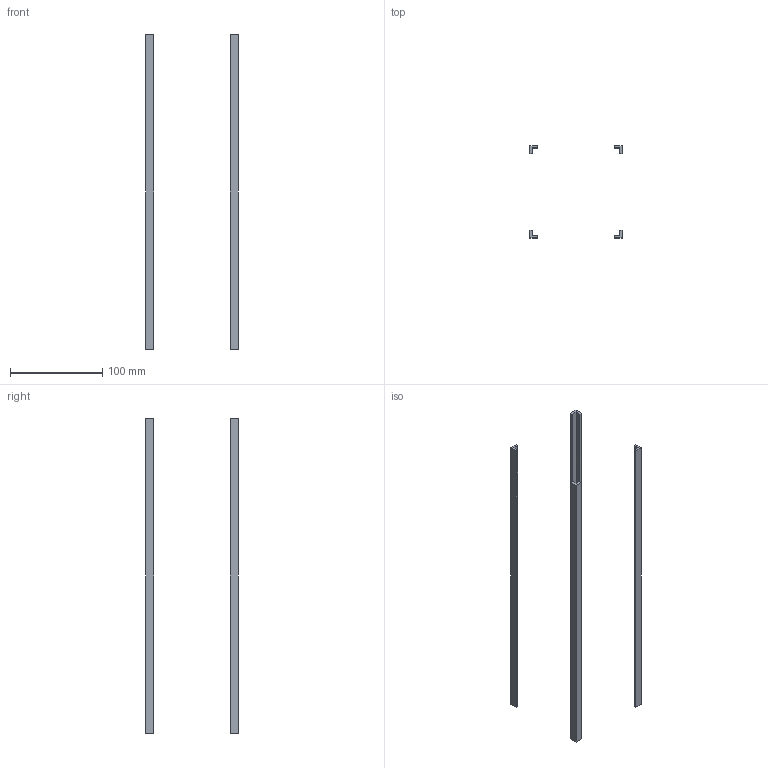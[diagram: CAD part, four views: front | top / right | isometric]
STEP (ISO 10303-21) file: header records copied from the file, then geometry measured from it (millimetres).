
FILE_DESCRIPTION(('Open CASCADE Model'),'2;1');
FILE_NAME('rails','2026-08-12T02:42:45',('Author'),('Open CASCADE'), 'Open CASCADE STEP processor 7.9','build123d','Unknown');
FILE_SCHEMA(('AUTOMOTIVE_DESIGN { 1 0 10303 214 1 1 1 1 }'));
Length unit declared in the file: millimetre
Products named in the file (2): rails; COMPOUND
Assembly tree (4 placements, depth 2):
  rails
    COMPOUND  x4
Bounding box: 100 x 100 x 340.5 mm (x, y, z)
Volume: 49372.5 mm3; surface area: 46598 mm2
Topology: 4 solids, 4 shells, 32 faces, 72 edges, 48 vertices
Faces by surface type: plane 32
Entity records: 500 total; most frequent: CARTESIAN_POINT 87, DIRECTION 72, LINE 46, VECTOR 46, ORIENTED_EDGE 36, PCURVE 36, DEFINITIONAL_REPRESENTATION 36, EDGE_CURVE 18
